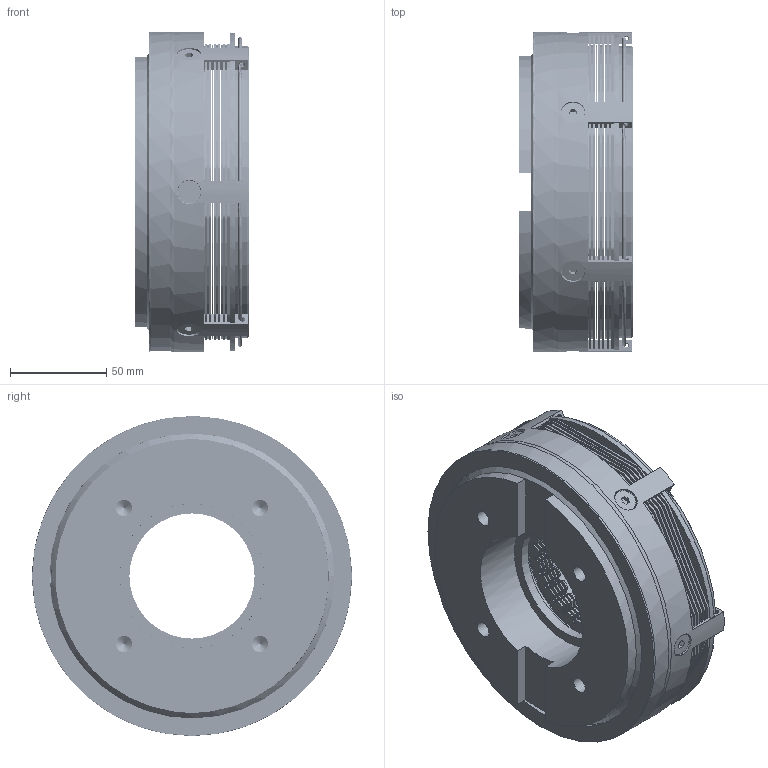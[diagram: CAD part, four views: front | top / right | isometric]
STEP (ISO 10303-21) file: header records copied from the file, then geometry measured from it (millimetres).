
FILE_DESCRIPTION(/* description */ (''),/* implementation_level */ '2;1');
FILE_NAME(/* name */ 'X:\INVENTOR\DISEGNI\05_Friz_Elettmag-Lam\05_02 ECF\05_02_166_01 ECF166\05_02_166_01 ECF166@STEP.stp',/* time_stamp */ '2023-03-03T16:30:43+01:00',/* author */ ('alessio'),/* organization */ (''),/* preprocessor_version */ 'ST-DEVELOPER v18.1',/* originating_system */ 'Autodesk Inventor 2021',/* authorisation */ '');
FILE_SCHEMA (('AUTOMOTIVE_DESIGN { 1 0 10303 214 3 1 1 }'));
Products named in the file (1): 05_02_166_01 ECF166
Bounding box: 59 x 166 x 166 mm (x, y, z)
Volume: 850069.8 mm3; surface area: 342377.1 mm2
Topology: 11 solids, 24 shells, 11726 faces, 34998 edges, 23286 vertices
Faces by surface type: plane 10512, cylinder 1158, cone 46, torus 10
Full cylindrical faces by diameter (mm): 4 x1, 4.917 x6, 6 x6, 6.5 x6, 8.376 x4, 12 x6, 12.5 x6, 65 x1, 75 x1, 78 x2, 108 x1, 117 x1, 132 x2, 148 x1, 152 x2, 166 x4
Entity records: 401026 total; most frequent: CARTESIAN_POINT 71403, ORIENTED_EDGE 69988, DIRECTION 60790, EDGE_CURVE 34994, LINE 32406, VECTOR 32406, VERTEX_POINT 23286, AXIS2_PLACEMENT_3D 14192
